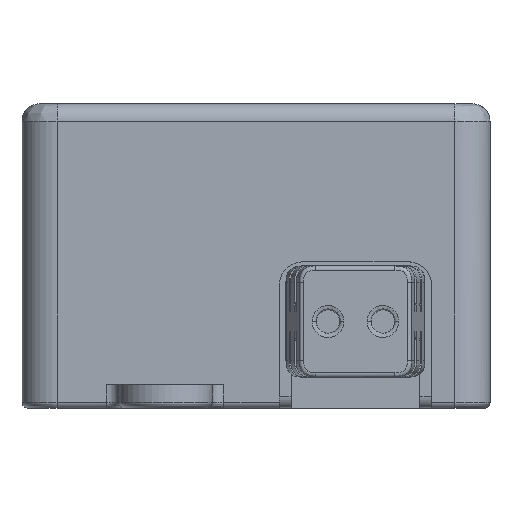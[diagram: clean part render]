
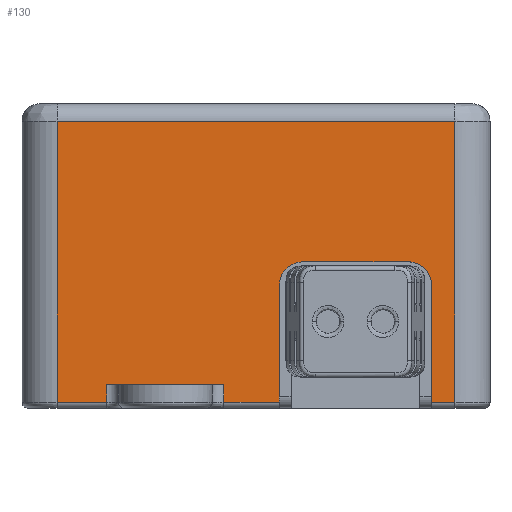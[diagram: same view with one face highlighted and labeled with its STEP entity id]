
A CAD part, left-side view. The second image highlights one B-rep face of the part: STEP entity #130.
In plain terms, the highlighted planar face has unit normal (-1, 0, 0).
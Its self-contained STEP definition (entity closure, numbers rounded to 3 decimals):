
#130=ADVANCED_FACE('',(#460),#5215,.T.);
#460=FACE_OUTER_BOUND('',#781,.T.);
#781=EDGE_LOOP('',(#1294,#1295,#1296,#1297,#1298,#1299,#1300,#1301,#1302,
#1303,#1304,#1305,#1306,#1307));
#1294=ORIENTED_EDGE('',*,*,#2915,.T.);
#1295=ORIENTED_EDGE('',*,*,#2906,.F.);
#1296=ORIENTED_EDGE('',*,*,#2904,.F.);
#1297=ORIENTED_EDGE('',*,*,#2900,.F.);
#1298=ORIENTED_EDGE('',*,*,#2896,.F.);
#1299=ORIENTED_EDGE('',*,*,#2916,.T.);
#1300=ORIENTED_EDGE('',*,*,#2917,.T.);
#1301=ORIENTED_EDGE('',*,*,#2918,.T.);
#1302=ORIENTED_EDGE('',*,*,#2919,.T.);
#1303=ORIENTED_EDGE('',*,*,#2875,.F.);
#1304=ORIENTED_EDGE('',*,*,#2920,.T.);
#1305=ORIENTED_EDGE('',*,*,#2921,.T.);
#1306=ORIENTED_EDGE('',*,*,#2856,.F.);
#1307=ORIENTED_EDGE('',*,*,#2914,.F.);
#2856=EDGE_CURVE('',#4572,#4573,#3928,.T.);
#2875=EDGE_CURVE('',#4588,#4583,#3937,.T.);
#2896=EDGE_CURVE('',#4603,#4602,#3950,.T.);
#2900=EDGE_CURVE('',#4602,#4604,#3951,.T.);
#2904=EDGE_CURVE('',#4604,#4605,#3954,.T.);
#2906=EDGE_CURVE('',#4605,#4609,#3681,.T.);
#2914=EDGE_CURVE('',#4611,#4572,#3685,.T.);
#2915=EDGE_CURVE('',#4611,#4609,#3959,.T.);
#2916=EDGE_CURVE('',#4603,#4612,#3960,.T.);
#2917=EDGE_CURVE('',#4612,#4613,#3961,.T.);
#2918=EDGE_CURVE('',#4613,#4614,#3962,.T.);
#2919=EDGE_CURVE('',#4614,#4583,#3963,.T.);
#2920=EDGE_CURVE('',#4588,#4615,#3964,.T.);
#2921=EDGE_CURVE('',#4615,#4573,#3965,.T.);
#3681=(
BOUNDED_CURVE()
B_SPLINE_CURVE(2,(#7517,#7518,#7519),.UNSPECIFIED.,.F.,.F.)
B_SPLINE_CURVE_WITH_KNOTS((3,3),(0.,4.),.UNSPECIFIED.)
CURVE()
GEOMETRIC_REPRESENTATION_ITEM()
RATIONAL_B_SPLINE_CURVE((1.,0.707,1.))
REPRESENTATION_ITEM('')
);
#3685=(
BOUNDED_CURVE()
B_SPLINE_CURVE(2,(#7537,#7538,#7539),.UNSPECIFIED.,.F.,.F.)
B_SPLINE_CURVE_WITH_KNOTS((3,3),(0.,4.),.UNSPECIFIED.)
CURVE()
GEOMETRIC_REPRESENTATION_ITEM()
RATIONAL_B_SPLINE_CURVE((1.,0.707,1.))
REPRESENTATION_ITEM('')
);
#3928=B_SPLINE_CURVE_WITH_KNOTS('',1,(#7378,#7379),.UNSPECIFIED.,.F.,.F.,
(2,2),(0.,10.),.UNSPECIFIED.);
#3937=B_SPLINE_CURVE_WITH_KNOTS('',1,(#7434,#7435),.UNSPECIFIED.,.F.,.F.,
(2,2),(0.,10.),.UNSPECIFIED.);
#3950=B_SPLINE_CURVE_WITH_KNOTS('',1,(#7492,#7493),.UNSPECIFIED.,.F.,.F.,
(2,2),(0.,24.),.UNSPECIFIED.);
#3951=B_SPLINE_CURVE_WITH_KNOTS('',1,(#7503,#7504),.UNSPECIFIED.,.F.,.F.,
(2,2),(0.,2.),.UNSPECIFIED.);
#3954=B_SPLINE_CURVE_WITH_KNOTS('',1,(#7512,#7513),.UNSPECIFIED.,.F.,.F.,
(2,2),(0.,10.),.UNSPECIFIED.);
#3959=B_SPLINE_CURVE_WITH_KNOTS('',1,(#7540,#7541),.UNSPECIFIED.,.F.,.F.,
(2,2),(0.,9.),.UNSPECIFIED.);
#3960=B_SPLINE_CURVE_WITH_KNOTS('',1,(#7542,#7543),.UNSPECIFIED.,.F.,.F.,
(2,2),(0.,34.),.UNSPECIFIED.);
#3961=B_SPLINE_CURVE_WITH_KNOTS('',1,(#7544,#7545),.UNSPECIFIED.,.F.,.F.,
(2,2),(0.,24.),.UNSPECIFIED.);
#3962=B_SPLINE_CURVE_WITH_KNOTS('',1,(#7546,#7547),.UNSPECIFIED.,.F.,.F.,
(2,2),(0.,4.25),.UNSPECIFIED.);
#3963=B_SPLINE_CURVE_WITH_KNOTS('',1,(#7548,#7549),.UNSPECIFIED.,.F.,.F.,
(2,2),(0.,1.5),.UNSPECIFIED.);
#3964=B_SPLINE_CURVE_WITH_KNOTS('',1,(#7550,#7551),.UNSPECIFIED.,.F.,.F.,
(2,2),(0.,1.5),.UNSPECIFIED.);
#3965=B_SPLINE_CURVE_WITH_KNOTS('',1,(#7552,#7553),.UNSPECIFIED.,.F.,.F.,
(2,2),(0.,4.75),.UNSPECIFIED.);
#4572=VERTEX_POINT('',#6964);
#4573=VERTEX_POINT('',#6965);
#4583=VERTEX_POINT('',#6975);
#4588=VERTEX_POINT('',#6980);
#4602=VERTEX_POINT('',#6994);
#4603=VERTEX_POINT('',#6995);
#4604=VERTEX_POINT('',#6996);
#4605=VERTEX_POINT('',#6997);
#4609=VERTEX_POINT('',#7001);
#4611=VERTEX_POINT('',#7003);
#4612=VERTEX_POINT('',#7004);
#4613=VERTEX_POINT('',#7005);
#4614=VERTEX_POINT('',#7006);
#4615=VERTEX_POINT('',#7007);
#5215=PLANE('',#5332);
#5332=AXIS2_PLACEMENT_3D('',#5677,#5432,$);
#5432=DIRECTION('',(-1.,0.,0.));
#5677=CARTESIAN_POINT('',(-38.5,30.,-12.5));
#6964=CARTESIAN_POINT('',(-38.5,11.,-2.5));
#6965=CARTESIAN_POINT('',(-38.5,11.,-12.5));
#6975=CARTESIAN_POINT('',(-38.5,25.75,-11.));
#6980=CARTESIAN_POINT('',(-38.5,15.75,-11.));
#6994=CARTESIAN_POINT('',(-38.5,-4.,-12.5));
#6995=CARTESIAN_POINT('',(-38.5,-4.,11.5));
#6996=CARTESIAN_POINT('',(-38.5,-2.,-12.5));
#6997=CARTESIAN_POINT('',(-38.5,-2.,-2.5));
#7001=CARTESIAN_POINT('',(-38.5,0.,-0.5));
#7003=CARTESIAN_POINT('',(-38.5,9.,-0.5));
#7004=CARTESIAN_POINT('',(-38.5,30.,11.5));
#7005=CARTESIAN_POINT('',(-38.5,30.,-12.5));
#7006=CARTESIAN_POINT('',(-38.5,25.75,-12.5));
#7007=CARTESIAN_POINT('',(-38.5,15.75,-12.5));
#7378=CARTESIAN_POINT('',(-38.5,11.,-2.5));
#7379=CARTESIAN_POINT('',(-38.5,11.,-12.5));
#7434=CARTESIAN_POINT('',(-38.5,15.75,-11.));
#7435=CARTESIAN_POINT('',(-38.5,25.75,-11.));
#7492=CARTESIAN_POINT('',(-38.5,-4.,11.5));
#7493=CARTESIAN_POINT('',(-38.5,-4.,-12.5));
#7503=CARTESIAN_POINT('',(-38.5,-4.,-12.5));
#7504=CARTESIAN_POINT('',(-38.5,-2.,-12.5));
#7512=CARTESIAN_POINT('',(-38.5,-2.,-12.5));
#7513=CARTESIAN_POINT('',(-38.5,-2.,-2.5));
#7517=CARTESIAN_POINT('',(-38.5,-2.,-2.5));
#7518=CARTESIAN_POINT('',(-38.5,-2.,-0.5));
#7519=CARTESIAN_POINT('',(-38.5,0.,-0.5));
#7537=CARTESIAN_POINT('',(-38.5,9.,-0.5));
#7538=CARTESIAN_POINT('',(-38.5,11.,-0.5));
#7539=CARTESIAN_POINT('',(-38.5,11.,-2.5));
#7540=CARTESIAN_POINT('',(-38.5,9.,-0.5));
#7541=CARTESIAN_POINT('',(-38.5,0.,-0.5));
#7542=CARTESIAN_POINT('',(-38.5,-4.,11.5));
#7543=CARTESIAN_POINT('',(-38.5,30.,11.5));
#7544=CARTESIAN_POINT('',(-38.5,30.,11.5));
#7545=CARTESIAN_POINT('',(-38.5,30.,-12.5));
#7546=CARTESIAN_POINT('',(-38.5,30.,-12.5));
#7547=CARTESIAN_POINT('',(-38.5,25.75,-12.5));
#7548=CARTESIAN_POINT('',(-38.5,25.75,-12.5));
#7549=CARTESIAN_POINT('',(-38.5,25.75,-11.));
#7550=CARTESIAN_POINT('',(-38.5,15.75,-11.));
#7551=CARTESIAN_POINT('',(-38.5,15.75,-12.5));
#7552=CARTESIAN_POINT('',(-38.5,15.75,-12.5));
#7553=CARTESIAN_POINT('',(-38.5,11.,-12.5));
